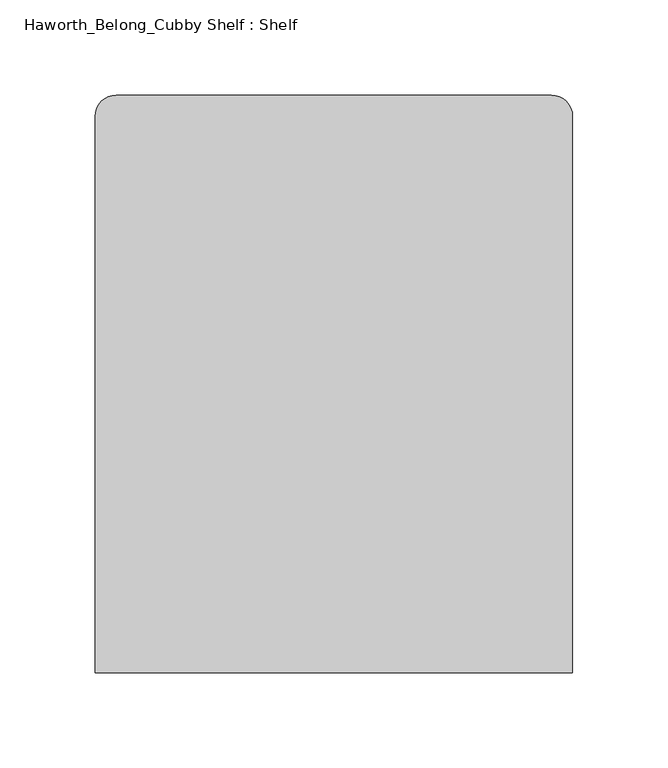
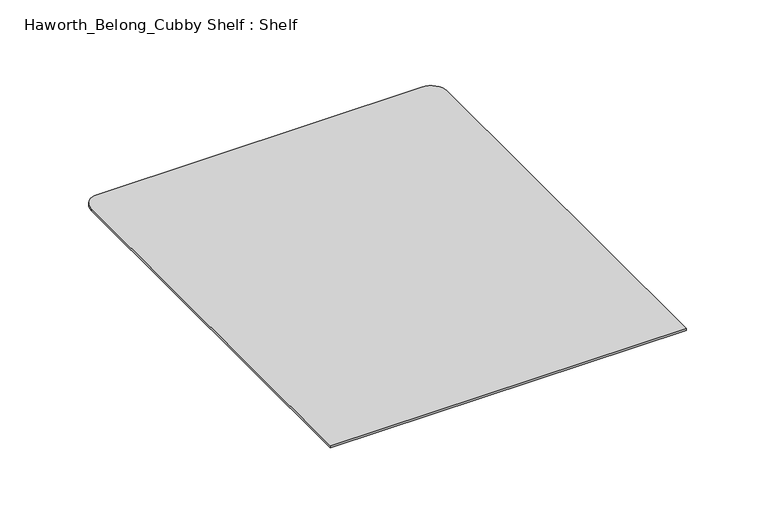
"""IFC4 building model written with IfcOpenShell, lengths in millimetres: furniture geometry, Haworth_Belong_Cubby Shelf : Shelf."""

from ifc_helpers import new_model, si_unit, point, frame_2d, origin, origin_with_axes, place, context, project, spatial, polyline, circle_curve, trimmed, segment, composite_curve, outline, extrude, source, transform, mapped, element, save


def haworth_belong_cubby_shelf_shelf_f9b6f94a(model_context):
    return source(origin(), model_context, "Body", "SweptSolid", [
        extrude(outline(composite_curve([segment(polyline([(-114.3, -0.79375), (114.3, -0.79375)]), True, "CONTINUOUS"), segment(trimmed(circle_curve(frame_2d((114.3, -11.90625)), 11.1125), [point((114.3, -0.79375))], [point((125.4125, -11.90625))], False, "CARTESIAN"), True, "CONTINUOUS"), segment(polyline([(125.4125, -11.90625), (125.4125, -304.00625), (-125.4125, -304.00625), (-125.4125, -11.90625)]), True, "CONTINUOUS"), segment(trimmed(circle_curve(frame_2d((-114.3, -11.90625)), 11.1125), [point((-125.4125, -11.90625))], [point((-114.3, -0.79375))], False, "CARTESIAN"), True, "CONTINUOUS")], self_intersect=False)), origin_with_axes(), (0.0, 0.0, 1.0), 1.4882813),
    ])


if __name__ == "__main__":
    model = new_model("IFC4")
    model_context = context("Model", 3, world=origin())
    ifc_project = project(units=[si_unit("LENGTHUNIT", "METRE", prefix="MILLI")], contexts=[model_context])
    site = spatial("IfcSite", under=ifc_project)
    building = spatial("IfcBuilding", under=site)
    placement = place(None, origin())
    haworth_belong_cubby_shelf_shelf_shape = haworth_belong_cubby_shelf_shelf_f9b6f94a(model_context)
    element("IfcFurniture", 1, ObjectType="Haworth_Belong_Cubby Shelf : Shelf", at=placement, inside=building, context=model_context, shape_type="MappedRepresentation", body=[
        mapped(haworth_belong_cubby_shelf_shelf_shape, transform((0.0, 0.0, 0.0), x_axis=(1.0, 0.0, 0.0), y_axis=(0.0, 1.0, 0.0), z_axis=(0.0, 0.0, 1.0))),
    ])
    save(model, "model.ifc")
